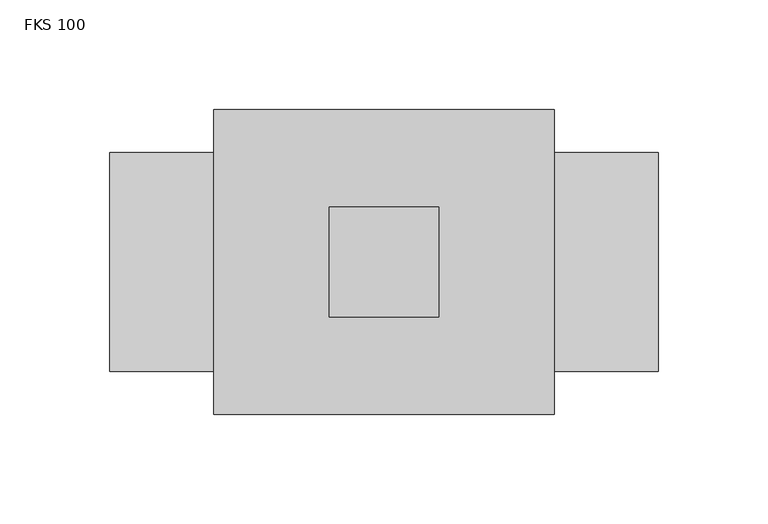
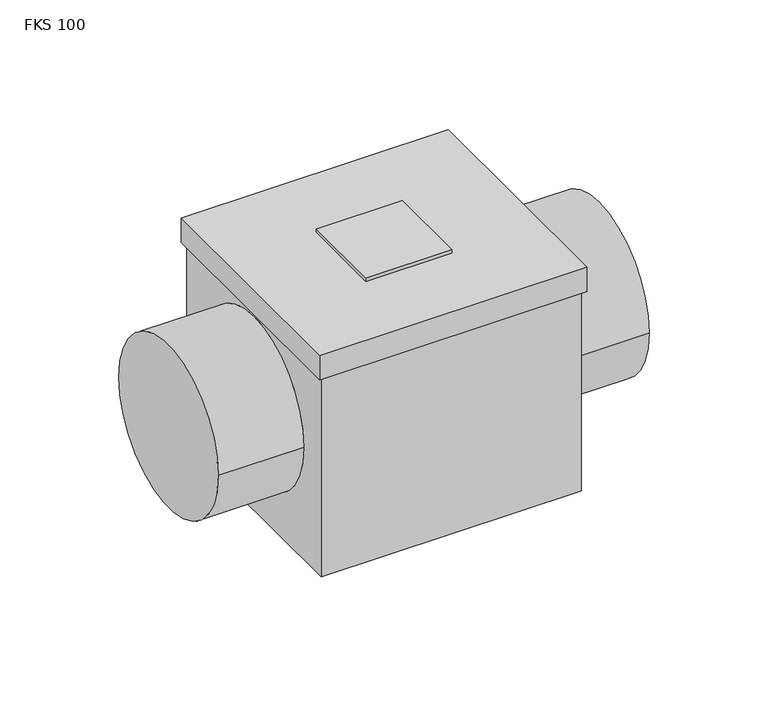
"""IFC4 building model written with IfcOpenShell, lengths in millimetres: damper geometry, KORF_Фильтр_Кассетный_Круглый_FKS : FKS 100."""

import ifcopenshell
import ifcopenshell.guid

model = None  # the IFC model being written
_history = None  # IfcOwnerHistory: only IFC2X3 demands one
_inside = {}  # id of a spatial element -> (the spatial element, [elements in it])
_under = {}  # id of a project, library or spatial element -> (it, [spatial elements below it])
_declared = {}  # id of a project -> (the project, [libraries it declares])
_typed = {}  # id of a type object -> (the type object, [elements of that type])
_made_of = {}  # id of a material, layer set ... -> (it, [elements and type objects made of it])


def new_model(schema):
    """Start an empty IFC model of exactly this schema.

    Asked for "IFC4X3", IfcOpenShell would pick the latest addendum, in which some entities
    have other attributes; the version numbers below select the first issue.
    IFC2X3 requires an IfcOwnerHistory on every rooted entity: one is made here for all.
    """
    global model, _history
    if schema == "IFC4X3":
        model = ifcopenshell.file(schema_version=(4, 3, 0, 0))
    else:
        model = ifcopenshell.file(schema=schema)
    _inside.clear()
    _under.clear()
    _declared.clear()
    _typed.clear()
    _made_of.clear()
    _history = None
    if model.schema == "IFC2X3":
        org = make("IfcOrganization", Name="unknown")
        user = make(
            "IfcPersonAndOrganization",
            ThePerson=make("IfcPerson", FamilyName="unknown"),
            TheOrganization=org,
        )
        app = make(
            "IfcApplication",
            ApplicationDeveloper=org,
            Version="unknown",
            ApplicationFullName="unknown",
            ApplicationIdentifier="unknown",
        )
        _history = make(
            "IfcOwnerHistory",
            OwningUser=user,
            OwningApplication=app,
            ChangeAction="ADDED",
            CreationDate=0,
        )
    return model


def make(cls, **values):
    """One entity of the class cls with the attributes given. An attribute that is None is left unset."""
    return model.create_entity(
        cls, **{name: value for name, value in values.items() if value is not None}
    )


def rooted(cls, **values):
    """An entity with a GlobalId (a new one), such as an element, a storey or a relation."""
    return make(cls, GlobalId=ifcopenshell.guid.new(), OwnerHistory=_history, **values)


def si_unit(unit_type, name, prefix=None):
    """IfcSIUnit, for example si_unit("LENGTHUNIT", "METRE", prefix="MILLI")."""
    return make("IfcSIUnit", UnitType=unit_type, Prefix=prefix, Name=name)


def assignment(units):
    """IfcUnitAssignment: the units of a project."""
    return None if units is None else make("IfcUnitAssignment", Units=units)


def point(xyz):
    """IfcCartesianPoint."""
    return None if xyz is None else make("IfcCartesianPoint", Coordinates=xyz)


def direction(xyz):
    """IfcDirection."""
    return None if xyz is None else make("IfcDirection", DirectionRatios=xyz)


def frame(location, z_axis=None, x_axis=None):
    """IfcAxis2Placement3D, a coordinate frame: its origin and axes. An axis left out is left unset."""
    return make(
        "IfcAxis2Placement3D",
        Location=point(location),
        Axis=direction(z_axis),
        RefDirection=direction(x_axis),
    )


def origin():
    """The frame at (0, 0, 0) with its axes left unset."""
    return frame((0.0, 0.0, 0.0))


def place(relative_to, where):
    """IfcLocalPlacement: puts the frame where relative to a parent placement (None: the world)."""
    return make(
        "IfcLocalPlacement", PlacementRelTo=relative_to, RelativePlacement=where
    )


def context(
    kind, dimensions, precision=None, world=None, true_north=None, identifier=None
):
    """IfcGeometricRepresentationContext, for example the 3D "Model" context."""
    return make(
        "IfcGeometricRepresentationContext",
        ContextIdentifier=identifier,
        ContextType=kind,
        CoordinateSpaceDimension=dimensions,
        Precision=precision,
        WorldCoordinateSystem=world,
        TrueNorth=true_north,
    )


def project(units=None, contexts=None):
    """IfcProject with its units and contexts."""
    return rooted(
        "IfcProject",
        Name="project",
        RepresentationContexts=contexts,
        UnitsInContext=assignment(units),
    )


def spatial(cls, under=None, at=None, **own):
    """A site, building, storey or space (cls), placed at a placement, below another one or the project."""
    s = rooted(cls, ObjectPlacement=at, **own)
    if under is not None:
        _under.setdefault(under.id(), (under, []))[1].append(s)
    return s


def polyline(points):
    """IfcPolyline through the points."""
    return make("IfcPolyline", Points=[point(p) for p in points])


def circle_curve(where, radius):
    """IfcCircle in the frame where."""
    return make("IfcCircle", Position=where, Radius=radius)


def outline(outer, holes=None, kind="AREA"):
    """IfcArbitraryClosedProfileDef: a profile drawn as a closed curve; with holes, ...WithVoids."""
    if holes is None:
        return make("IfcArbitraryClosedProfileDef", ProfileType=kind, OuterCurve=outer)
    return make(
        "IfcArbitraryProfileDefWithVoids",
        ProfileType=kind,
        OuterCurve=outer,
        InnerCurves=holes,
    )


def extrude(swept, where, along, depth):
    """IfcExtrudedAreaSolid: the profile swept, set in the frame where, extruded along a direction by depth."""
    return make(
        "IfcExtrudedAreaSolid",
        SweptArea=swept,
        Position=where,
        ExtrudedDirection=direction(along),
        Depth=depth,
    )


def shape(context_of_items, identifier, shape_type, items):
    """IfcShapeRepresentation: the items that make up one representation, for example the "Body"."""
    return make(
        "IfcShapeRepresentation",
        ContextOfItems=context_of_items,
        RepresentationIdentifier=identifier,
        RepresentationType=shape_type,
        Items=items,
    )


def source(mapping_origin, context_of_items, identifier, shape_type, items):
    """IfcRepresentationMap: a shape defined once, which mapped items show again and again."""
    return make(
        "IfcRepresentationMap",
        MappingOrigin=mapping_origin,
        MappedRepresentation=shape(context_of_items, identifier, shape_type, items),
    )


def transform(
    local_origin,
    x_axis=None,
    y_axis=None,
    z_axis=None,
    scale=None,
    scale2=None,
    scale3=None,
    uniform=True,
):
    """IfcCartesianTransformationOperator3D, or its non-uniform kind. x_axis, y_axis, z_axis: its Axis1, 2, 3."""
    if uniform:
        return make(
            "IfcCartesianTransformationOperator3D",
            Axis1=direction(x_axis),
            Axis2=direction(y_axis),
            LocalOrigin=point(local_origin),
            Scale=scale,
            Axis3=direction(z_axis),
        )
    return make(
        "IfcCartesianTransformationOperator3DnonUniform",
        Axis1=direction(x_axis),
        Axis2=direction(y_axis),
        LocalOrigin=point(local_origin),
        Scale=scale,
        Axis3=direction(z_axis),
        Scale2=scale2,
        Scale3=scale3,
    )


def mapped(mapping_source, mapping_target):
    """IfcMappedItem: shows the shape of a source again, moved by a transform."""
    return make(
        "IfcMappedItem", MappingSource=mapping_source, MappingTarget=mapping_target
    )


def made_of(thing, what):
    """Note that an element or type object is made of a material, layer set ...; save() writes the relation."""
    if what is not None:
        _made_of.setdefault(what.id(), (what, []))[1].append(thing)
    return thing


def element(
    cls,
    number,
    at=None,
    inside=None,
    cuts=None,
    type_object=None,
    material=None,
    context=None,
    identifier="Body",
    shape_type=None,
    held_by="IfcProductDefinitionShape",
    body=None,
    shapes=None,
    **own,
):
    """One element of the class cls, such as IfcWall. Its Tag is "e" and its number.

    at: its placement. inside: the storey or other place that contains it. cuts: it is an
    opening in that element (IfcRelVoidsElement). A single representation is given by context,
    identifier, shape_type and body (its items); several are given by shapes. held_by: the class
    of the entity that holds the representations. save() writes the other relations.
    """
    e = rooted(cls, Tag="e%d" % number, ObjectPlacement=at, **own)
    if body is not None:
        shapes = [shape(context, identifier, shape_type, body)]
    if shapes is not None:
        e.Representation = make(held_by, Representations=shapes)
    if inside is not None:
        _inside.setdefault(inside.id(), (inside, []))[1].append(e)
    if cuts is not None:
        rooted(
            "IfcRelVoidsElement", RelatingBuildingElement=cuts, RelatedOpeningElement=e
        )
    if type_object is not None:
        _typed.setdefault(type_object.id(), (type_object, []))[1].append(e)
    return made_of(e, material)


def aggregate(whole, parts):
    """IfcRelAggregates: a whole, such as a stair, and the parts it consists of."""
    return rooted("IfcRelAggregates", RelatingObject=whole, RelatedObjects=parts)


def save(model, path):
    """Write the relations noted so far, then the file.

    IfcRelAggregates (storeys below a building ...), IfcRelContainedInSpatialStructure (elements
    in a storey), IfcRelDefinesByType, IfcRelAssociatesMaterial and IfcRelDeclares: one each for
    every whole, place, type object, material and project.
    """
    for whole, parts in _under.values():
        aggregate(whole, parts)
    for where, things in _inside.values():
        rooted(
            "IfcRelContainedInSpatialStructure",
            RelatedElements=things,
            RelatingStructure=where,
        )
    for kind, things in _typed.values():
        rooted("IfcRelDefinesByType", RelatedObjects=things, RelatingType=kind)
    for what, things in _made_of.values():
        rooted("IfcRelAssociatesMaterial", RelatedObjects=things, RelatingMaterial=what)
    for by, libraries in _declared.values():
        rooted("IfcRelDeclares", RelatingContext=by, RelatedDefinitions=libraries)
    model.write(path)


def plane_surface(at):
    """IfcPlane: the flat surface through the origin of the frame at, square to its z axis."""
    return make("IfcPlane", Position=at)


def cylinder_surface(at, radius):
    """IfcCylindricalSurface: all points at the distance radius from the z axis of the frame at."""
    return make("IfcCylindricalSurface", Position=at, Radius=radius)


def advanced_brep(points, edges, surfaces, faces):
    """IfcAdvancedBrep: a solid bounded by faces that lie on surfaces and meet in shared edges.

    An edge is (start, end): straight between two places in points (the first is 0);
    or (start, end, curve); or (start, end, curve, False) where it runs against its curve.
    A face is (place in surfaces, loops), or (place, loops, False) where it looks against
    its surface's normal. A loop lists edges by number (the first is 1), with a minus sign
    where the edge is run from its end to its start. The first loop is the outer one.
    """
    corners = [point(p) for p in points]
    vertices = [make("IfcVertexPoint", VertexGeometry=c) for c in corners]
    made = []
    for start, end, *more in edges:
        made.append(
            make(
                "IfcEdgeCurve",
                EdgeStart=vertices[start],
                EdgeEnd=vertices[end],
                EdgeGeometry=more[0] if more else make("IfcPolyline", Points=[corners[start], corners[end]]),
                SameSense=more[1] if len(more) > 1 else True,
            )
        )
    hull = []
    for where, loops, *sense in faces:
        bounds = []
        for j, loop in enumerate(loops):
            ring = [make("IfcOrientedEdge", EdgeElement=made[abs(k) - 1], Orientation=k > 0) for k in loop]
            bounds.append(
                make(
                    "IfcFaceOuterBound" if j == 0 else "IfcFaceBound",
                    Bound=make("IfcEdgeLoop", EdgeList=ring),
                    Orientation=True,
                )
            )
        hull.append(make("IfcAdvancedFace", Bounds=bounds, FaceSurface=surfaces[where], SameSense=sense[0] if sense else True))
    return make("IfcAdvancedBrep", Outer=make("IfcClosedShell", CfsFaces=hull))


def fks_100_c1252e7d(model_context):
    return source(origin(), model_context, "Body", "SolidModel", [
        extrude(outline(polyline([(150.0, 25.0), (150.0, -25.0), (100.0, -25.0), (100.0, 25.0), (150.0, 25.0)])), frame((0.0, 0.0, 69.0), z_axis=(0.0, 0.0, 1.0), x_axis=(1.0, 0.0, 0.0)), (0.0, 0.0, 1.0), 2.0),
        advanced_brep(
        [(250.0, -50.0, 0.0), (250.0, 50.0, 0.0), (0.0, -50.0, 0.0), (0.0, 50.0, 0.0), (200.5, -50.0, 0.0), (200.5, 50.0, 0.0), (49.5, 50.0, 0.0), (49.5, -50.0, 0.0), (200.5, -67.5, -69.0), (200.5, 67.5, -69.0), (200.5, 67.5, 54.0), (200.5, -67.5, 54.0), (49.5, 67.5, -69.0), (49.5, -67.5, -69.0), (49.5, -67.5, 54.0), (49.5, 67.5, 54.0), (202.5, 69.5, 69.0), (47.5, 69.5, 69.0), (47.5, -69.5, 69.0), (202.5, -69.5, 69.0), (202.5, 69.5, 54.0), (202.5, -69.5, 54.0), (47.5, -69.5, 54.0), (47.5, 69.5, 54.0)],
        [
            (0, 1, circle_curve(frame((250.0, 0.0, 0.0), z_axis=(1.0, 0.0, 0.0), x_axis=(0.0, 1.0, 0.0)), 50.0)),
            (1, 0, circle_curve(frame((250.0, 0.0, 0.0), z_axis=(1.0, 0.0, 0.0), x_axis=(0.0, 1.0, 0.0)), 50.0)),
            (2, 3, circle_curve(frame((0.0, 0.0, 0.0), z_axis=(-1.0, 0.0, 0.0), x_axis=(0.0, 1.0, 0.0)), 50.0)),
            (3, 2, circle_curve(frame((0.0, 0.0, 0.0), z_axis=(-1.0, 0.0, 0.0), x_axis=(0.0, 1.0, 0.0)), 50.0)),
            (0, 4),
            (4, 5, circle_curve(frame((200.5, 0.0, 0.0), z_axis=(1.0, 0.0, 0.0), x_axis=(0.0, 1.0, 0.0)), 50.0)),
            (5, 1),
            (3, 6),
            (6, 7, circle_curve(frame((49.5, 0.0, 0.0), z_axis=(-1.0, 0.0, 0.0), x_axis=(0.0, 1.0, 0.0)), 50.0)),
            (7, 2),
            (5, 4, circle_curve(frame((200.5, 0.0, 0.0), z_axis=(1.0, 0.0, 0.0), x_axis=(0.0, 1.0, 0.0)), 50.0)),
            (7, 6, circle_curve(frame((49.5, 0.0, 0.0), z_axis=(-1.0, 0.0, 0.0), x_axis=(0.0, 1.0, 0.0)), 50.0)),
            (8, 9),
            (9, 10),
            (10, 11),
            (11, 8),
            (12, 13),
            (13, 14),
            (14, 15),
            (15, 12),
            (13, 8),
            (11, 14),
            (12, 9),
            (15, 10),
            (16, 17),
            (17, 18),
            (18, 19),
            (19, 16),
            (20, 21),
            (21, 22),
            (22, 23),
            (23, 20),
            (16, 20),
            (23, 17),
            (22, 18),
            (21, 19),
        ],
        [
            plane_surface(frame((250.0, 50.0, 0.0), z_axis=(1.0, 0.0, 0.0), x_axis=(0.0, 0.0, 1.0))),
            plane_surface(frame((0.0, 50.0, 0.0), z_axis=(-1.0, 0.0, 0.0), x_axis=(0.0, 0.0, -1.0))),
            cylinder_surface(frame((0.0, 0.0, 0.0), z_axis=(1.0, 0.0, 0.0), x_axis=(0.0, 1.0, 0.0)), 50.0),
            plane_surface(frame((200.5, -67.5, 69.0), z_axis=(1.0, 0.0, 0.0), x_axis=(0.0, 0.0, -1.0))),
            plane_surface(frame((49.5, -67.5, 69.0), z_axis=(-1.0, 0.0, 0.0), x_axis=(0.0, 0.0, 1.0))),
            plane_surface(frame((200.5, -67.5, 69.0), z_axis=(0.0, -1.0, 0.0), x_axis=(-1.0, 0.0, 0.0))),
            plane_surface(frame((200.5, -67.5, -69.0), z_axis=(0.0, 0.0, -1.0), x_axis=(-1.0, 0.0, 0.0))),
            plane_surface(frame((200.5, 67.5, -69.0), z_axis=(0.0, 1.0, 0.0), x_axis=(-1.0, 0.0, 0.0))),
            plane_surface(frame((200.5, 67.5, 69.0), z_axis=(0.0, 0.0, 1.0), x_axis=(-1.0, 0.0, 0.0))),
            plane_surface(frame((47.5, 69.5, 54.0), z_axis=(0.0, 0.0, -1.0), x_axis=(1.0, 0.0, 0.0))),
            plane_surface(frame((202.5, 69.5, 69.0), z_axis=(0.0, 1.0, 0.0), x_axis=(0.0, 0.0, -1.0))),
            plane_surface(frame((47.5, 69.5, 69.0), z_axis=(-1.0, 0.0, 0.0), x_axis=(0.0, 0.0, -1.0))),
            plane_surface(frame((47.5, -69.5, 69.0), z_axis=(0.0, -1.0, 0.0), x_axis=(0.0, 0.0, -1.0))),
            plane_surface(frame((202.5, -69.5, 69.0), z_axis=(1.0, 0.0, 0.0), x_axis=(0.0, 0.0, -1.0))),
        ],
        [
            (0, [[1, 2]]),
            (1, [[3, 4]]),
            (2, [[-1, 5, 6, 7]]),
            (2, [[-4, 8, 9, 10]]),
            (2, [[-2, -7, 11, -5]]),
            (2, [[-3, -10, 12, -8]]),
            (3, [[13, 14, 15, 16], [-6, -11]]),
            (4, [[17, 18, 19, 20], [-9, -12]]),
            (5, [[21, -16, 22, -18]]),
            (6, [[-13, -21, -17, 23]]),
            (7, [[-23, -20, 24, -14]]),
            (8, [[25, 26, 27, 28]]),
            (9, [[29, 30, 31, 32], [-15, -24, -19, -22]]),
            (10, [[-25, 33, -32, 34]]),
            (11, [[-26, -34, -31, 35]]),
            (12, [[-27, -35, -30, 36]]),
            (13, [[-28, -36, -29, -33]]),
        ],
    ),
    ])


if __name__ == "__main__":
    model = new_model("IFC4")
    model_context = context("Model", 3, world=origin())
    ifc_project = project(units=[si_unit("LENGTHUNIT", "METRE", prefix="MILLI")], contexts=[model_context])
    site = spatial("IfcSite", under=ifc_project)
    building = spatial("IfcBuilding", under=site)
    placement = place(None, origin())
    fks_100_shape = fks_100_c1252e7d(model_context)
    element("IfcDamper", 1, ObjectType="KORF_Фильтр_Кассетный_Круглый_FKS : FKS 100", at=placement, inside=building, context=model_context, shape_type="MappedRepresentation", body=[
        mapped(fks_100_shape, transform((0.0, 0.0, 0.0), x_axis=(1.0, 0.0, 0.0), y_axis=(0.0, 1.0, 0.0), z_axis=(0.0, 0.0, 1.0))),
    ])
    save(model, "model.ifc")
